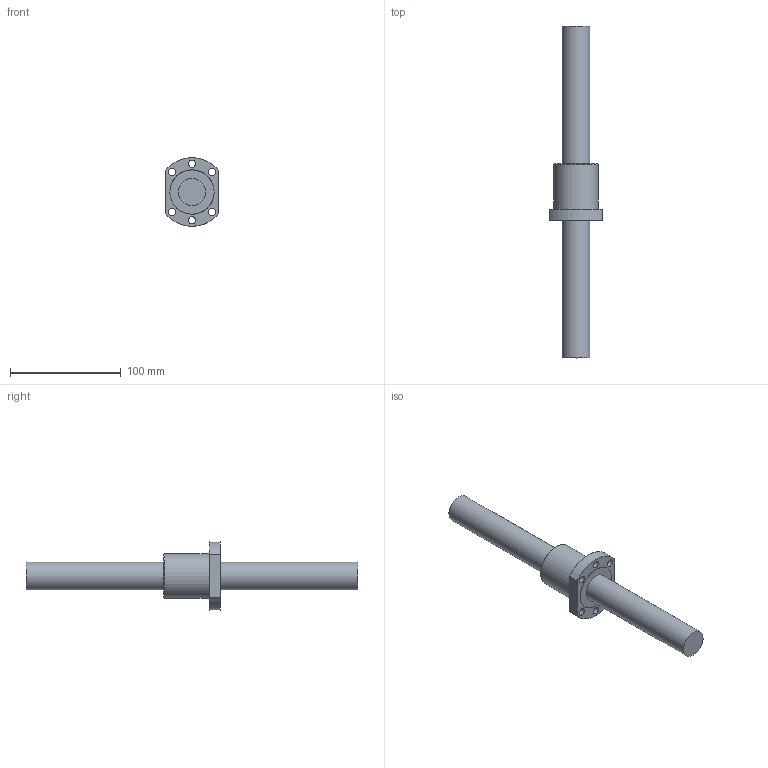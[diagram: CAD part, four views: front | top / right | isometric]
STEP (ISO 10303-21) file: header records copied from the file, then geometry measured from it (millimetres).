
FILE_DESCRIPTION(/* description */ (''),/* implementation_level */ '2;1');
FILE_NAME(/* name */ '2505.stp',/* time_stamp */ '2014-07-11T13:13:38+08:00',/* author */ (''),/* organization */ (''),/* preprocessor_version */ 'ST-DEVELOPER v11',/* originating_system */ 'SIEMENS UGS NX 6.0',/* authorisation */ '');
FILE_SCHEMA (('CONFIG_CONTROL_DESIGN'));
Length unit declared in the file: millimetre
Products named in the file (1): kcc5E5Cj7o2
Bounding box: 48 x 300 x 61.8 mm (x, y, z)
Volume: 197818.1 mm3; surface area: 45054.2 mm2
Topology: 4 solids, 4 shells, 32 faces, 75 edges, 52 vertices
Faces by surface type: cylinder 18, plane 13, torus 1
Full cylindrical faces by diameter (mm): 5 x1, 6.6 x6, 25 x4, 32 x2, 40 x3
Entity records: 998 total; most frequent: CARTESIAN_POINT 240, DIRECTION 146, ORIENTED_EDGE 96, EDGE_LOOP 70, AXIS2_PLACEMENT_3D 68, FACE_BOUND 64, EDGE_CURVE 48, VERTEX_POINT 42
